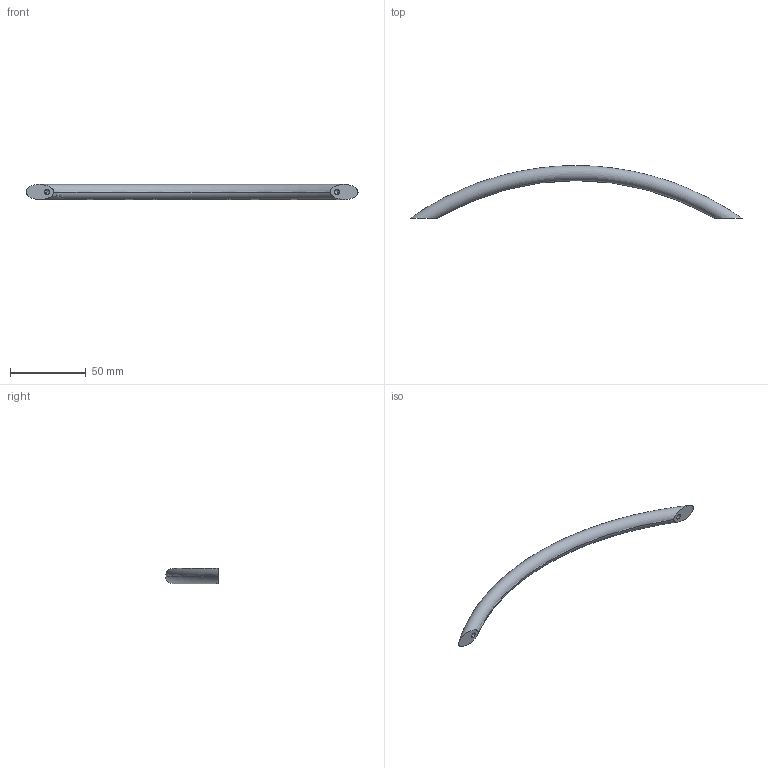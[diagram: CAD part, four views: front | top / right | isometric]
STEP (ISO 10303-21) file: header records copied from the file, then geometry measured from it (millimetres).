
FILE_DESCRIPTION (( 'STEP AP214' ), '1' );
FILE_NAME ('424.1-10-192-SR.step', '2020-02-13T13:54:10', ( '' ), ( '' ), 'SwSTEP 2.0', 'SolidWorks 2019', '' );
FILE_SCHEMA (( 'AUTOMOTIVE_DESIGN' ));
Length unit declared in the file: millimetre
Products named in the file (1): 424.1-10-192-SR
Bounding box: 219.77 x 34.93 x 9.97 mm (x, y, z)
Volume: 16638.3 mm3; surface area: 7151.7 mm2
Topology: 1 solids, 1 shells, 12 faces, 26 edges, 14 vertices
Faces by surface type: cylinder 4, cone 4, torus 2, plane 2
Entity records: 522 total; most frequent: CARTESIAN_POINT 201, DIRECTION 54, ORIENTED_EDGE 44, AXIS2_PLACEMENT_3D 23, EDGE_CURVE 22, EDGE_LOOP 14, VERTEX_POINT 14, FACE_OUTER_BOUND 12
